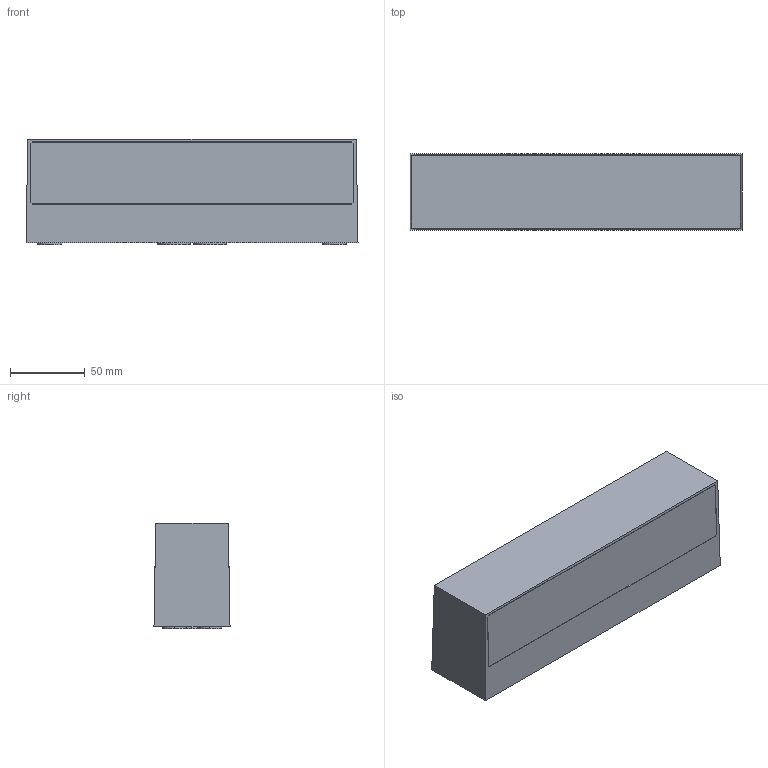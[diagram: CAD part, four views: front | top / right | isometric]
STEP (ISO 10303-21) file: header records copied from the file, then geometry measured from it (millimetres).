
FILE_DESCRIPTION(/* description */ (''),/* implementation_level */ '2;1');
FILE_NAME(/* name */ 'C:\Users\FrancoSartori\Documents\FARO\01_En Proceso\2021\0_DORO\03_Publicación\71900.stp',/* time_stamp */ '2021-04-14T12:30:40+02:00',/* author */ ('FrancoSartori'),/* organization */ (''),/* preprocessor_version */ 'ST-DEVELOPER v18.1',/* originating_system */ 'AutoCAD Mechanical',/* authorisation */ '');
FILE_SCHEMA (('AUTOMOTIVE_DESIGN { 1 0 10303 214 3 1 1 }'));
Length unit declared in the file: millimetre
Products named in the file (2): Product; 71900_71901_71902 - lamp-522297-Export
Assembly tree (1 placements, depth 2):
  Product
    71900_71901_71902 - lamp-522297-Export
Bounding box: 221.8 x 50.8 x 70.5 mm (x, y, z)
Volume: 527593.2 mm3; surface area: 262749.6 mm2
Topology: 9 solids, 11 shells, 400 faces, 1044 edges, 688 vertices
Faces by surface type: plane 320, cylinder 80
Entity records: 12412 total; most frequent: CARTESIAN_POINT 2347, ORIENTED_EDGE 2056, DIRECTION 1956, EDGE_CURVE 1044, LINE 902, VECTOR 902, VERTEX_POINT 688, AXIS2_PLACEMENT_3D 527
